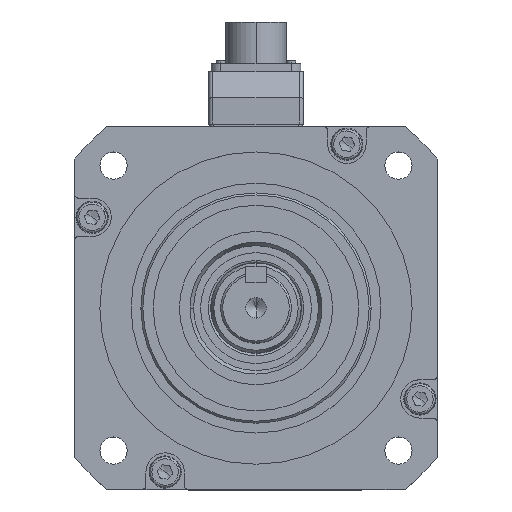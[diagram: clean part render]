
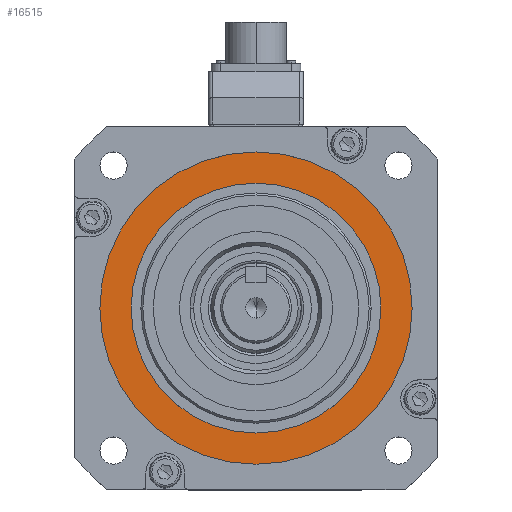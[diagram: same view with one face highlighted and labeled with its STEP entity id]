
A CAD part, top view. The second image highlights one B-rep face of the part: STEP entity #16515.
In plain terms, the highlighted planar face has unit normal (0, 0, 1).
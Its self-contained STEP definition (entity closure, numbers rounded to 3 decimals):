
#2748 = CIRCLE ( 'NONE', #8888, 62. ) ;
#2755 = CIRCLE ( 'NONE', #8890, 77.5 ) ;
#3929 = CARTESIAN_POINT ( 'NONE',  ( 0., 0., 20. ) ) ;
#3930 = DIRECTION ( 'NONE',  ( 0., 0., 1. ) ) ;
#3931 = DIRECTION ( 'NONE',  ( 1., 0., 0. ) ) ;
#3938 = CARTESIAN_POINT ( 'NONE',  ( 0., 0., 20. ) ) ;
#3939 = DIRECTION ( 'NONE',  ( 0., 0., 1. ) ) ;
#3940 = DIRECTION ( 'NONE',  ( 1., 0., 0. ) ) ;
#7782 = AXIS2_PLACEMENT_3D ( 'NONE', #50374, #50375, #50376 ) ;
#7784 = AXIS2_PLACEMENT_3D ( 'NONE', #50378, #50379, #50380 ) ;
#8888 = AXIS2_PLACEMENT_3D ( 'NONE', #3929, #3930, #3931 ) ;
#8890 = AXIS2_PLACEMENT_3D ( 'NONE', #3938, #3939, #3940 ) ;
#12483 = PLANE ( 'NONE',  #15530 ) ;
#12485 = CARTESIAN_POINT ( 'NONE',  ( 0., 0., 20. ) ) ;
#12487 = DIRECTION ( 'NONE',  ( 0., 0., 1. ) ) ;
#12488 = DIRECTION ( 'NONE',  ( 1., 0., 0. ) ) ;
#15530 = AXIS2_PLACEMENT_3D ( 'NONE', #12485, #12487, #12488 ) ;
#16515 = ADVANCED_FACE ( 'NONE', ( #17449, #17454 ), #12483, .T. ) ;
#17449 = FACE_BOUND ( 'NONE', #28098, .T. ) ;
#17454 = FACE_OUTER_BOUND ( 'NONE', #28266, .T. ) ;
#28098 = EDGE_LOOP ( 'NONE', ( #32203, #32204 ) ) ;
#28266 = EDGE_LOOP ( 'NONE', ( #32205, #32206 ) ) ;
#29555 = EDGE_CURVE ( 'NONE', #41060, #41035, #63330, .T. ) ;
#29556 = EDGE_CURVE ( 'NONE', #41107, #41116, #63332, .T. ) ;
#32203 = ORIENTED_EDGE ( 'NONE', *, *, #33928, .F. ) ;
#32204 = ORIENTED_EDGE ( 'NONE', *, *, #29556, .F. ) ;
#32205 = ORIENTED_EDGE ( 'NONE', *, *, #29555, .T. ) ;
#32206 = ORIENTED_EDGE ( 'NONE', *, *, #33932, .T. ) ;
#33928 = EDGE_CURVE ( 'NONE', #41116, #41107, #2748, .T. ) ;
#33932 = EDGE_CURVE ( 'NONE', #41035, #41060, #2755, .T. ) ;
#41035 = VERTEX_POINT ( 'NONE', #53861 ) ;
#41060 = VERTEX_POINT ( 'NONE', #53886 ) ;
#41107 = VERTEX_POINT ( 'NONE', #53945 ) ;
#41116 = VERTEX_POINT ( 'NONE', #53958 ) ;
#50374 = CARTESIAN_POINT ( 'NONE',  ( 0., 0., 20. ) ) ;
#50375 = DIRECTION ( 'NONE',  ( 0., 0., 1. ) ) ;
#50376 = DIRECTION ( 'NONE',  ( 1., 0., 0. ) ) ;
#50378 = CARTESIAN_POINT ( 'NONE',  ( 0., 0., 20. ) ) ;
#50379 = DIRECTION ( 'NONE',  ( 0., 0., 1. ) ) ;
#50380 = DIRECTION ( 'NONE',  ( 1., 0., 0. ) ) ;
#53861 = CARTESIAN_POINT ( 'NONE',  ( -77.5, 0., 20. ) ) ;
#53886 = CARTESIAN_POINT ( 'NONE',  ( 77.5, 0., 20. ) ) ;
#53945 = CARTESIAN_POINT ( 'NONE',  ( -62., 0., 20. ) ) ;
#53958 = CARTESIAN_POINT ( 'NONE',  ( 62., 0., 20. ) ) ;
#63330 = CIRCLE ( 'NONE', #7782, 77.5 ) ;
#63332 = CIRCLE ( 'NONE', #7784, 62. ) ;
